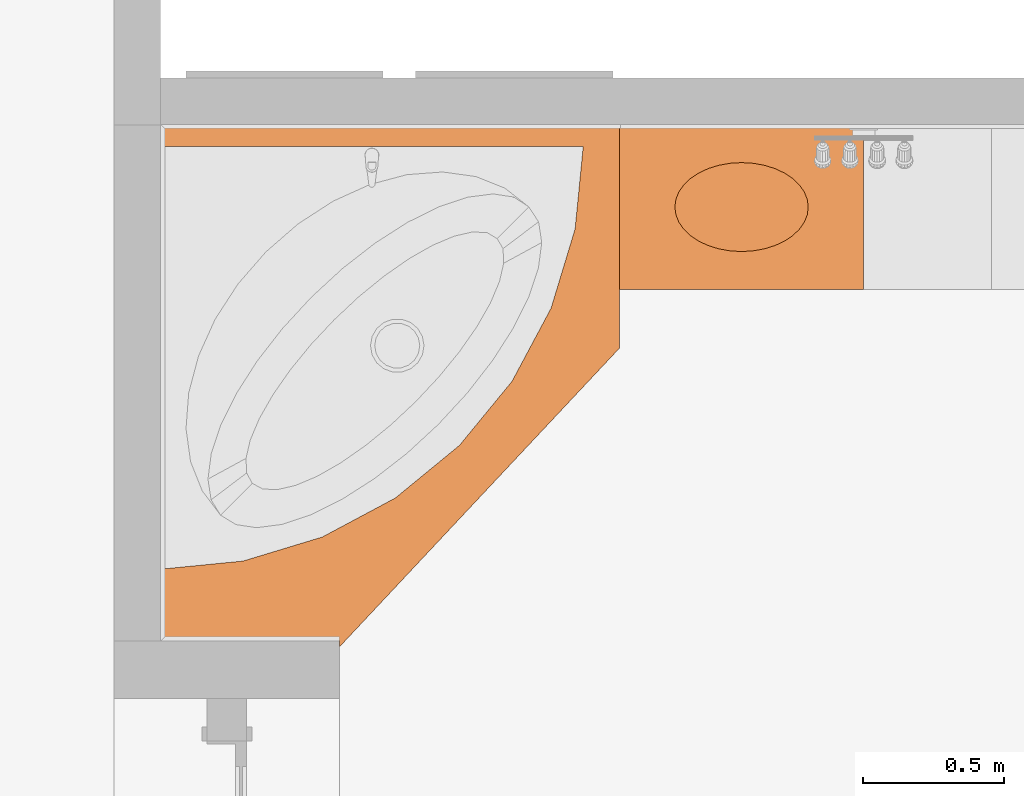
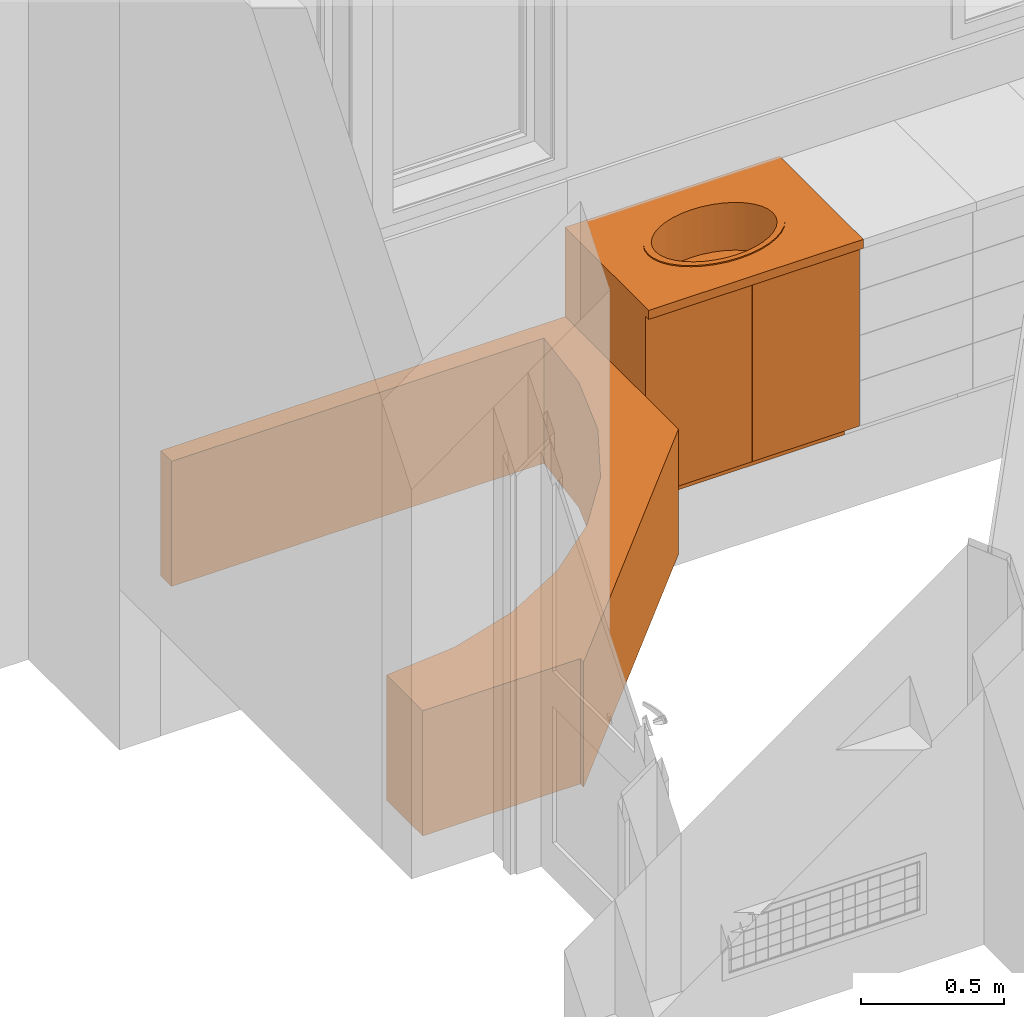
# One storey, part 67 of 77: 2 proxies.
"""IFC2X3 building model written with IfcOpenShell, lengths in inches."""

from ifc_helpers import new_model, entity, si_unit, converted_unit, derived_unit, money_unit, direction, frame, origin_with_axes, place, context, subcontext, project, spatial, open_shell, faceted_brep, surface_model, material, type_object, element, save


model = new_model("IFC2X3")

# Units and contexts
model_context = context("Model", 3, precision=0.000393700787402, world=origin_with_axes(), true_north=direction((0.0, 1.0)))
body_context = subcontext(model_context, "Body", "Model", "MODEL_VIEW")
ifc_project = project(units=[converted_unit("LENGTHUNIT", "INCH", entity("IfcPositiveLengthMeasure", 0.0254), si_unit("LENGTHUNIT", "METRE"), dimensions=[1, 0, 0, 0, 0, 0, 0]), converted_unit("AREAUNIT", "SQUARE_FOOT", entity("IfcPositiveLengthMeasure", 0.09290304), si_unit("AREAUNIT", "SQUARE_METRE"), dimensions=[2, 0, 0, 0, 0, 0, 0]), si_unit("PLANEANGLEUNIT", "RADIAN"), si_unit("SOLIDANGLEUNIT", "STERADIAN"), money_unit("USD"), converted_unit("TIMEUNIT", "Year", entity("IfcTimeMeasure", 31556926.0), si_unit("TIMEUNIT", "SECOND"), dimensions=[0, 0, 1, 0, 0, 0, 0]), si_unit("MASSUNIT", "GRAM", prefix="KILO"), si_unit("THERMODYNAMICTEMPERATUREUNIT", "DEGREE_CELSIUS"), si_unit("LUMINOUSINTENSITYUNIT", "LUMEN"), si_unit("ENERGYUNIT", "JOULE", prefix="MEGA"), derived_unit("THERMALCONDUCTANCEUNIT", [(si_unit("POWERUNIT", "WATT"), 1), (si_unit("LENGTHUNIT", "METRE"), -1), (si_unit("THERMODYNAMICTEMPERATUREUNIT", "KELVIN"), -1)]), derived_unit("SPECIFICHEATCAPACITYUNIT", [(si_unit("ENERGYUNIT", "JOULE"), 1), (si_unit("MASSUNIT", "GRAM", prefix="KILO"), -1), (si_unit("THERMODYNAMICTEMPERATUREUNIT", "KELVIN"), -1)]), derived_unit("MASSDENSITYUNIT", [(si_unit("MASSUNIT", "GRAM", prefix="KILO"), 1), (si_unit("VOLUMEUNIT", "CUBIC_METRE"), -1)])], contexts=[model_context])

# Site, building, storey
site_placement = place(None, origin_with_axes())
site = spatial("IfcSite", under=ifc_project, at=site_placement, Name="Site", CompositionType="ELEMENT")
building_placement = place(site_placement, origin_with_axes())
building = spatial("IfcBuilding", under=site, at=building_placement, Name="Building", CompositionType="ELEMENT")
storey_placement = place(building_placement, frame((0.0, 0.0, 127.952755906), z_axis=(0.0, 0.0, 1.0), x_axis=(1.0, 0.0, 0.0)))
storey = spatial("IfcBuildingStorey", under=building, at=storey_placement, Name="Second Floor", CompositionType="ELEMENT", Elevation=127.953)

# Proxies
ifc_material = material(Name="Generic - Structural")
building_element_proxy_type_1 = type_object("IfcBuildingElementProxyType", Name="Generic - Structural", PredefinedType="NOTDEFINED")
proxy_1_placement = place(storey_placement, frame((477.485392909, 551.859125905, 0.0), z_axis=(0.0, 0.0, 1.0), x_axis=(1.0, 0.0, 0.0)))
element("IfcBuildingElementProxy", 1, at=proxy_1_placement, inside=storey, type_object=building_element_proxy_type_1, material=ifc_material, Name="MO-05", context=body_context, shape_type="Brep", body=[
    faceted_brep([(-52.7247125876, -29.8798200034, 21.0), (-64.2457934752, -31.0145372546, 21.0), (-64.2457495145, -40.9519535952, 21.0), (-39.2457495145, -40.9519535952, 21.0), (-39.2457005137, -41.8675978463, 21.0), (-0.0913544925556, -0.0974576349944, 21.0), (-0.0870925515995, 31.0492793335, 21.0), (-64.2457495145, 31.0492793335, 21.0), (-64.2457934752, 28.0405808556, 21.0), (-5.19071115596, 28.0405808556, 21.0), (-6.32542840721, 16.519535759, 21.0), (-9.68598674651, 5.4411893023, 21.0), (-15.1432523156, -4.76868900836, 21.0), (-22.4875257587, -13.7176868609, 21.0), (-31.4365236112, -21.061960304, 21.0), (-41.6464019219, -26.5192258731, 21.0), (-52.7247125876, -29.8798200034, 0.0), (-64.2457934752, -31.0145372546, 0.0), (-64.2457495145, -40.9519535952, 0.0), (-39.2457495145, -40.9519535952, 0.0), (-39.2457005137, -41.8675978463, 0.0), (-0.0913544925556, -0.0974576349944, 0.0), (-0.0870925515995, 31.0492793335, 0.0), (-64.2457495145, 31.0492793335, 0.0), (-64.2457934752, 28.0405808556, 0.0), (-5.19071115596, 28.0405808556, 0.0), (-6.32542840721, 16.519535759, 0.0), (-9.68598674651, 5.4411893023, 0.0), (-15.1432523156, -4.76868900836, 0.0), (-22.4875257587, -13.7176868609, 0.0), (-31.4365236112, -21.061960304, 0.0), (-41.6464019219, -26.5192258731, 0.0)], [[[0, 1, 2, 3, 4, 5, 6, 7, 8, 9, 10, 11, 12, 13, 14, 15]], [[1, 0, 16, 17]], [[1, 17, 18, 2]], [[2, 18, 19, 3]], [[3, 19, 20, 4]], [[5, 4, 20, 21]], [[6, 5, 21, 22]], [[22, 23, 7, 6]], [[24, 8, 7, 23]], [[9, 8, 24, 25]], [[10, 9, 25, 26]], [[11, 10, 26, 27]], [[12, 11, 27, 28]], [[13, 12, 28, 29]], [[14, 13, 29, 30]], [[15, 14, 30, 31]], [[0, 15, 31, 16]], [[25, 24, 23, 22, 21, 20, 19, 18, 17, 16, 31, 30, 29, 28, 27, 26]]]),
])
building_element_proxy_type_2 = type_object("IfcBuildingElementProxyType", Name="Base Cabinet Block 25", PredefinedType="NOTDEFINED")
proxy_2_placement = place(storey_placement, frame((477.395156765, 582.981927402, 0.0), z_axis=(0.0, 0.0, 1.0), x_axis=(1.0, 0.0, 0.0)))
element("IfcBuildingElementProxy", 2, at=proxy_2_placement, inside=storey, type_object=building_element_proxy_type_2, Name="FU - 025", context=body_context, shape_type="SurfaceModel", body=[
    surface_model("IfcShellBasedSurfaceModel", [(26.3464566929, -11.5413385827, 28.1456692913), (26.2048816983, -10.4625321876, 28.1456692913), (26.2048816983, -10.4625321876, 35.9488188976), (26.3464566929, -11.5413385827, 35.9488188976), (26.2048816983, -12.6201449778, 28.1456692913), (25.7844583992, -13.6661723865, 28.1456692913), (25.0979611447, -14.6476377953, 28.1456692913), (24.1662488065, -15.5347198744, 28.1456692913), (23.0176309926, -16.3004650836, 28.1456692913), (21.687007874, -16.9216066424, 28.1456692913), (20.2148097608, -17.3792714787, 28.1456692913), (18.6457686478, -17.6595536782, 28.1456692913), (17.0275590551, -17.7539370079, 28.1456692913), (15.4093494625, -17.6595536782, 28.1456692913), (13.8403083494, -17.3792714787, 28.1456692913), (12.3681102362, -16.9216066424, 28.1456692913), (11.0374871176, -16.3004650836, 28.1456692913), (9.88886930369, -15.5347198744, 28.1456692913), (8.95715696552, -14.6476377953, 28.1456692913), (8.27065971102, -13.6661723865, 28.1456692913), (7.85023641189, -12.6201449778, 28.1456692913), (7.70866141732, -11.5413385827, 28.1456692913), (7.85023641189, -10.4625321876, 28.1456692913), (8.27065971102, -9.41650477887, 28.1456692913), (8.95715696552, -8.43503937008, 28.1456692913), (9.88886930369, -7.547957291, 28.1456692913), (11.0374871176, -6.78221208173, 28.1456692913), (12.3681102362, -6.16107052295, 28.1456692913), (13.8403083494, -5.70340568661, 28.1456692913), (15.4093494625, -5.42312348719, 28.1456692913), (17.0275590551, -5.32874015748, 28.1456692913), (18.6457686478, -5.42312348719, 28.1456692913), (20.2148097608, -5.70340568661, 28.1456692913), (21.687007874, -6.16107052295, 28.1456692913), (23.0176309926, -6.78221208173, 28.1456692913), (24.1662488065, -7.547957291, 28.1456692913), (25.0979611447, -8.43503937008, 28.1456692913), (25.7844583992, -9.41650477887, 28.1456692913), (25.7844583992, -9.41650477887, 35.9488188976), (26.2048816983, -12.6201449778, 35.9488188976), (25.7844583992, -13.6661723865, 35.9488188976), (25.0979611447, -14.6476377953, 35.9488188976), (24.1662488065, -15.5347198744, 35.9488188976), (23.0176309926, -16.3004650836, 35.9488188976), (21.687007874, -16.9216066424, 35.9488188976), (20.2148097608, -17.3792714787, 35.9488188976), (18.6457686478, -17.6595536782, 35.9488188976), (17.0275590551, -17.7539370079, 35.9488188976), (15.4093494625, -17.6595536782, 35.9488188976), (13.8403083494, -17.3792714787, 35.9488188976), (12.3681102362, -16.9216066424, 35.9488188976), (11.0374871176, -16.3004650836, 35.9488188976), (9.88886930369, -15.5347198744, 35.9488188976), (8.95715696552, -14.6476377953, 35.9488188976), (8.27065971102, -13.6661723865, 35.9488188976), (7.85023641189, -12.6201449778, 35.9488188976), (7.70866141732, -11.5413385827, 35.9488188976), (7.85023641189, -10.4625321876, 35.9488188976), (8.27065971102, -9.41650477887, 35.9488188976), (8.95715696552, -8.43503937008, 35.9488188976), (9.88886930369, -7.547957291, 35.9488188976), (11.0374871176, -6.78221208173, 35.9488188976), (12.3681102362, -6.16107052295, 35.9488188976), (13.8403083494, -5.70340568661, 35.9488188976), (15.4093494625, -5.42312348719, 35.9488188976), (17.0275590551, -5.32874015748, 35.9488188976), (18.6457686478, -5.42312348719, 35.9488188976), (20.2148097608, -5.70340568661, 35.9488188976), (21.687007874, -6.16107052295, 35.9488188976), (23.0176309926, -6.78221208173, 35.9488188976), (24.1662488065, -7.547957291, 35.9488188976), (25.0979611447, -8.43503937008, 35.9488188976)], [open_shell([[[0, 1, 2, 3]], [[0, 4, 5, 6, 7, 8, 9, 10, 11, 12, 13, 14, 15, 16, 17, 18, 19, 20, 21, 22, 23, 24, 25, 26, 27, 28, 29, 30, 31, 32, 33, 34, 35, 36, 37, 1]], [[1, 37, 38, 2]], [[4, 0, 3, 39]], [[5, 4, 39, 40]], [[6, 5, 40, 41]], [[7, 6, 41, 42]], [[8, 7, 42, 43]], [[9, 8, 43, 44]], [[10, 9, 44, 45]], [[11, 10, 45, 46]], [[12, 11, 46, 47]], [[13, 12, 47, 48]], [[14, 13, 48, 49]], [[15, 14, 49, 50]], [[16, 15, 50, 51]], [[17, 16, 51, 52]], [[18, 17, 52, 53]], [[19, 18, 53, 54]], [[20, 19, 54, 55]], [[21, 20, 55, 56]], [[22, 21, 56, 57]], [[23, 22, 57, 58]], [[24, 23, 58, 59]], [[25, 24, 59, 60]], [[26, 25, 60, 61]], [[27, 26, 61, 62]], [[28, 27, 62, 63]], [[29, 28, 63, 64]], [[30, 29, 64, 65]], [[31, 30, 65, 66]], [[32, 31, 66, 67]], [[33, 32, 67, 68]], [[34, 33, 68, 69]], [[35, 34, 69, 70]], [[36, 35, 70, 71]], [[37, 36, 71, 38]]])]),
    faceted_brep([(27.5275590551, -11.5413385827, 35.9488188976), (27.3680404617, -10.325801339, 35.9488188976), (27.3680404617, -10.325801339, 36.1456692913), (27.5275590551, -11.5413385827, 36.1456692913), (27.3680404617, -12.7568758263, 35.9488188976), (26.8943315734, -13.935479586, 35.9488188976), (26.1208257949, -15.0413385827, 35.9488188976), (25.0710257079, -16.0408518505, 35.9488188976), (23.7768289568, -16.9036496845, 35.9488188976), (22.2775590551, -17.6035164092, 35.9488188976), (20.61877056, -18.1191869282, 35.9488188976), (18.8508649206, -18.4349928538, 35.9488188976), (17.0275590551, -18.5413385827, 35.9488188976), (15.2042531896, -18.4349928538, 35.9488188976), (13.4363475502, -18.1191869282, 35.9488188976), (11.7775590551, -17.6035164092, 35.9488188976), (10.2782891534, -16.9036496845, 35.9488188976), (8.98409240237, -16.0408518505, 35.9488188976), (7.93429231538, -15.0413385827, 35.9488188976), (7.16078653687, -13.935479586, 35.9488188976), (6.68707764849, -12.7568758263, 35.9488188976), (6.52755905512, -11.5413385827, 35.9488188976), (6.68707764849, -10.325801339, 35.9488188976), (7.16078653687, -9.1471975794, 35.9488188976), (7.93429231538, -8.04133858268, 35.9488188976), (8.98409240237, -7.04182531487, 35.9488188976), (10.2782891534, -6.17902748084, 35.9488188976), (11.7775590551, -5.47916075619, 35.9488188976), (13.4363475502, -4.96349023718, 35.9488188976), (15.2042531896, -4.64768431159, 35.9488188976), (17.0275590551, -4.54133858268, 35.9488188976), (18.8508649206, -4.64768431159, 35.9488188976), (20.61877056, -4.96349023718, 35.9488188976), (22.2775590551, -5.47916075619, 35.9488188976), (23.7768289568, -6.17902748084, 35.9488188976), (25.0710257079, -7.04182531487, 35.9488188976), (26.1208257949, -8.04133858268, 35.9488188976), (26.8943315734, -9.1471975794, 35.9488188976), (26.3464566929, -11.5413385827, 35.9488188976), (26.2048816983, -10.4625321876, 35.9488188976), (25.7844583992, -9.41650477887, 35.9488188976), (25.0979611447, -8.43503937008, 35.9488188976), (24.1662488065, -7.547957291, 35.9488188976), (23.0176309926, -6.78221208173, 35.9488188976), (21.687007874, -6.16107052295, 35.9488188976), (20.2148097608, -5.70340568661, 35.9488188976), (18.6457686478, -5.42312348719, 35.9488188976), (17.0275590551, -5.32874015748, 35.9488188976), (15.4093494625, -5.42312348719, 35.9488188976), (13.8403083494, -5.70340568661, 35.9488188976), (12.3681102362, -6.16107052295, 35.9488188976), (11.0374871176, -6.78221208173, 35.9488188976), (9.88886930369, -7.547957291, 35.9488188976), (8.95715696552, -8.43503937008, 35.9488188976), (8.27065971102, -9.41650477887, 35.9488188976), (7.85023641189, -10.4625321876, 35.9488188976), (7.70866141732, -11.5413385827, 35.9488188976), (7.85023641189, -12.6201449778, 35.9488188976), (8.27065971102, -13.6661723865, 35.9488188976), (8.95715696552, -14.6476377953, 35.9488188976), (9.88886930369, -15.5347198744, 35.9488188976), (11.0374871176, -16.3004650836, 35.9488188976), (12.3681102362, -16.9216066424, 35.9488188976), (13.8403083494, -17.3792714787, 35.9488188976), (15.4093494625, -17.6595536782, 35.9488188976), (17.0275590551, -17.7539370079, 35.9488188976), (18.6457686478, -17.6595536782, 35.9488188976), (20.2148097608, -17.3792714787, 35.9488188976), (21.687007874, -16.9216066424, 35.9488188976), (23.0176309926, -16.3004650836, 35.9488188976), (24.1662488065, -15.5347198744, 35.9488188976), (25.0979611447, -14.6476377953, 35.9488188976), (25.7844583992, -13.6661723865, 35.9488188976), (26.2048816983, -12.6201449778, 35.9488188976), (26.8943315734, -9.1471975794, 36.1456692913), (26.1208257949, -8.04133858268, 36.1456692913), (25.0710257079, -7.04182531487, 36.1456692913), (23.7768289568, -6.17902748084, 36.1456692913), (22.2775590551, -5.47916075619, 36.1456692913), (20.61877056, -4.96349023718, 36.1456692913), (18.8508649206, -4.64768431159, 36.1456692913), (17.0275590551, -4.54133858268, 36.1456692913), (15.2042531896, -4.64768431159, 36.1456692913), (13.4363475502, -4.96349023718, 36.1456692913), (11.7775590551, -5.47916075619, 36.1456692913), (10.2782891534, -6.17902748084, 36.1456692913), (8.98409240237, -7.04182531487, 36.1456692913), (7.93429231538, -8.04133858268, 36.1456692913), (7.16078653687, -9.1471975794, 36.1456692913), (6.68707764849, -10.325801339, 36.1456692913), (6.52755905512, -11.5413385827, 36.1456692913), (6.68707764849, -12.7568758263, 36.1456692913), (7.16078653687, -13.935479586, 36.1456692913), (7.93429231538, -15.0413385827, 36.1456692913), (8.98409240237, -16.0408518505, 36.1456692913), (10.2782891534, -16.9036496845, 36.1456692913), (11.7775590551, -17.6035164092, 36.1456692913), (13.4363475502, -18.1191869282, 36.1456692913), (15.2042531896, -18.4349928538, 36.1456692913), (17.0275590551, -18.5413385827, 36.1456692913), (18.8508649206, -18.4349928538, 36.1456692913), (20.61877056, -18.1191869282, 36.1456692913), (22.2775590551, -17.6035164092, 36.1456692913), (23.7768289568, -16.9036496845, 36.1456692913), (25.0710257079, -16.0408518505, 36.1456692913), (26.1208257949, -15.0413385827, 36.1456692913), (26.8943315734, -13.935479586, 36.1456692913), (27.3680404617, -12.7568758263, 36.1456692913), (26.3464566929, -11.5413385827, 36.1456692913), (26.2048816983, -12.6201449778, 36.1456692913), (25.7844583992, -13.6661723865, 36.1456692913), (25.0979611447, -14.6476377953, 36.1456692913), (24.1662488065, -15.5347198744, 36.1456692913), (23.0176309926, -16.3004650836, 36.1456692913), (21.687007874, -16.9216066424, 36.1456692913), (20.2148097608, -17.3792714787, 36.1456692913), (18.6457686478, -17.6595536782, 36.1456692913), (17.0275590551, -17.7539370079, 36.1456692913), (15.4093494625, -17.6595536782, 36.1456692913), (13.8403083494, -17.3792714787, 36.1456692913), (12.3681102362, -16.9216066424, 36.1456692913), (11.0374871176, -16.3004650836, 36.1456692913), (9.88886930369, -15.5347198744, 36.1456692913), (8.95715696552, -14.6476377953, 36.1456692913), (8.27065971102, -13.6661723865, 36.1456692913), (7.85023641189, -12.6201449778, 36.1456692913), (7.70866141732, -11.5413385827, 36.1456692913), (7.85023641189, -10.4625321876, 36.1456692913), (8.27065971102, -9.41650477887, 36.1456692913), (8.95715696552, -8.43503937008, 36.1456692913), (9.88886930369, -7.547957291, 36.1456692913), (11.0374871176, -6.78221208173, 36.1456692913), (12.3681102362, -6.16107052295, 36.1456692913), (13.8403083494, -5.70340568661, 36.1456692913), (15.4093494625, -5.42312348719, 36.1456692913), (17.0275590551, -5.32874015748, 36.1456692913), (18.6457686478, -5.42312348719, 36.1456692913), (20.2148097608, -5.70340568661, 36.1456692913), (21.687007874, -6.16107052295, 36.1456692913), (23.0176309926, -6.78221208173, 36.1456692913), (24.1662488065, -7.547957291, 36.1456692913), (25.0979611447, -8.43503937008, 36.1456692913), (25.7844583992, -9.41650477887, 36.1456692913), (26.2048816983, -10.4625321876, 36.1456692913)], [[[0, 1, 2, 3]], [[0, 4, 5, 6, 7, 8, 9, 10, 11, 12, 13, 14, 15, 16, 17, 18, 19, 20, 21, 22, 23, 24, 25, 26, 27, 28, 29, 30, 31, 32, 33, 34, 35, 36, 37, 1], [38, 39, 40, 41, 42, 43, 44, 45, 46, 47, 48, 49, 50, 51, 52, 53, 54, 55, 56, 57, 58, 59, 60, 61, 62, 63, 64, 65, 66, 67, 68, 69, 70, 71, 72, 73]], [[1, 37, 74, 2]], [[3, 2, 74, 75, 76, 77, 78, 79, 80, 81, 82, 83, 84, 85, 86, 87, 88, 89, 90, 91, 92, 93, 94, 95, 96, 97, 98, 99, 100, 101, 102, 103, 104, 105, 106, 107], [108, 109, 110, 111, 112, 113, 114, 115, 116, 117, 118, 119, 120, 121, 122, 123, 124, 125, 126, 127, 128, 129, 130, 131, 132, 133, 134, 135, 136, 137, 138, 139, 140, 141, 142, 143]], [[4, 0, 3, 107]], [[5, 4, 107, 106]], [[6, 5, 106, 105]], [[7, 6, 105, 104]], [[8, 7, 104, 103]], [[9, 8, 103, 102]], [[10, 9, 102, 101]], [[11, 10, 101, 100]], [[12, 11, 100, 99]], [[13, 12, 99, 98]], [[14, 13, 98, 97]], [[15, 14, 97, 96]], [[16, 15, 96, 95]], [[17, 16, 95, 94]], [[18, 17, 94, 93]], [[19, 18, 93, 92]], [[20, 19, 92, 91]], [[21, 20, 91, 90]], [[22, 21, 90, 89]], [[23, 22, 89, 88]], [[24, 23, 88, 87]], [[25, 24, 87, 86]], [[26, 25, 86, 85]], [[27, 26, 85, 84]], [[28, 27, 84, 83]], [[29, 28, 83, 82]], [[30, 29, 82, 81]], [[31, 30, 81, 80]], [[32, 31, 80, 79]], [[33, 32, 79, 78]], [[34, 33, 78, 77]], [[35, 34, 77, 76]], [[36, 35, 76, 75]], [[37, 36, 75, 74]], [[39, 38, 108, 143]], [[40, 39, 143, 142]], [[41, 40, 142, 141]], [[42, 41, 141, 140]], [[43, 42, 140, 139]], [[44, 43, 139, 138]], [[45, 44, 138, 137]], [[46, 45, 137, 136]], [[47, 46, 136, 135]], [[48, 47, 135, 134]], [[49, 48, 134, 133]], [[50, 49, 133, 132]], [[51, 50, 132, 131]], [[52, 51, 131, 130]], [[53, 52, 130, 129]], [[54, 53, 129, 128]], [[55, 54, 128, 127]], [[56, 55, 127, 126]], [[57, 56, 126, 125]], [[58, 57, 125, 124]], [[59, 58, 124, 123]], [[60, 59, 123, 122]], [[61, 60, 122, 121]], [[62, 61, 121, 120]], [[63, 62, 120, 119]], [[64, 63, 119, 118]], [[65, 64, 118, 117]], [[66, 65, 117, 116]], [[67, 66, 116, 115]], [[68, 67, 115, 114]], [[69, 68, 114, 113]], [[70, 69, 113, 112]], [[71, 70, 112, 111]], [[72, 71, 111, 110]], [[73, 72, 110, 109]], [[38, 73, 109, 108]]]),
    faceted_brep([(0.0, 0.0, 34.4488188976), (34.0551181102, 0.0, 34.4488188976), (34.0551181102, -23.0472440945, 34.4488188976), (0.0, -23.0472440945, 34.4488188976), (26.1544161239, -13.6661723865, 34.4488188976), (26.5926012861, -12.6201449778, 34.4488188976), (26.7401574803, -11.5413385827, 34.4488188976), (26.5926012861, -10.4625321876, 34.4488188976), (26.1544161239, -9.41650477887, 34.4488188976), (25.4389160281, -8.43503937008, 34.4488188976), (24.467841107, -7.547957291, 34.4488188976), (23.2706969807, -6.78221208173, 34.4488188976), (21.8838582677, -6.16107052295, 34.4488188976), (20.3494633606, -5.70340568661, 34.4488188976), (18.7141340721, -5.42312348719, 34.4488188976), (17.0275590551, -5.32874015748, 34.4488188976), (15.3409840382, -5.42312348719, 34.4488188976), (13.7056547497, -5.70340568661, 34.4488188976), (12.1712598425, -6.16107052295, 34.4488188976), (10.7844211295, -6.78221208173, 34.4488188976), (9.58727700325, -7.547957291, 34.4488188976), (8.61620208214, -8.43503937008, 34.4488188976), (7.9007019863, -9.41650477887, 34.4488188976), (7.46251682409, -10.4625321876, 34.4488188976), (7.31496062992, -11.5413385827, 34.4488188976), (7.46251682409, -12.6201449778, 34.4488188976), (7.9007019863, -13.6661723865, 34.4488188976), (8.61620208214, -14.6476377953, 34.4488188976), (9.58727700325, -15.5347198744, 34.4488188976), (10.7844211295, -16.3004650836, 34.4488188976), (12.1712598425, -16.9216066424, 34.4488188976), (13.7056547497, -17.3792714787, 34.4488188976), (15.3409840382, -17.6595536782, 34.4488188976), (17.0275590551, -17.7539370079, 34.4488188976), (18.7141340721, -17.6595536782, 34.4488188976), (20.3494633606, -17.3792714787, 34.4488188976), (21.8838582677, -16.9216066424, 34.4488188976), (23.2706969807, -16.3004650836, 34.4488188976), (24.467841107, -15.5347198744, 34.4488188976), (25.4389160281, -14.6476377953, 34.4488188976), (0.0, 0.0, 35.9488188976), (34.0551181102, 0.0, 35.9488188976), (34.0551181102, -23.0472440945, 35.9488188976), (0.0, -23.0472440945, 35.9488188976), (26.1544161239, -13.6661723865, 35.9488188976), (26.5926012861, -12.6201449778, 35.9488188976), (26.7401574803, -11.5413385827, 35.9488188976), (26.5926012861, -10.4625321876, 35.9488188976), (26.1544161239, -9.41650477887, 35.9488188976), (25.4389160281, -8.43503937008, 35.9488188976), (24.467841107, -7.547957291, 35.9488188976), (23.2706969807, -6.78221208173, 35.9488188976), (21.8838582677, -6.16107052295, 35.9488188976), (20.3494633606, -5.70340568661, 35.9488188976), (18.7141340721, -5.42312348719, 35.9488188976), (17.0275590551, -5.32874015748, 35.9488188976), (15.3409840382, -5.42312348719, 35.9488188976), (13.7056547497, -5.70340568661, 35.9488188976), (12.1712598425, -6.16107052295, 35.9488188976), (10.7844211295, -6.78221208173, 35.9488188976), (9.58727700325, -7.547957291, 35.9488188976), (8.61620208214, -8.43503937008, 35.9488188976), (7.9007019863, -9.41650477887, 35.9488188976), (7.46251682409, -10.4625321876, 35.9488188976), (7.31496062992, -11.5413385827, 35.9488188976), (7.46251682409, -12.6201449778, 35.9488188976), (7.9007019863, -13.6661723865, 35.9488188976), (8.61620208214, -14.6476377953, 35.9488188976), (9.58727700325, -15.5347198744, 35.9488188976), (10.7844211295, -16.3004650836, 35.9488188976), (12.1712598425, -16.9216066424, 35.9488188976), (13.7056547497, -17.3792714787, 35.9488188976), (15.3409840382, -17.6595536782, 35.9488188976), (17.0275590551, -17.7539370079, 35.9488188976), (18.7141340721, -17.6595536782, 35.9488188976), (20.3494633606, -17.3792714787, 35.9488188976), (21.8838582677, -16.9216066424, 35.9488188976), (23.2706969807, -16.3004650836, 35.9488188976), (24.467841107, -15.5347198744, 35.9488188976), (25.4389160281, -14.6476377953, 35.9488188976)], [[[0, 1, 2, 3], [4, 5, 6, 7, 8, 9, 10, 11, 12, 13, 14, 15, 16, 17, 18, 19, 20, 21, 22, 23, 24, 25, 26, 27, 28, 29, 30, 31, 32, 33, 34, 35, 36, 37, 38, 39]], [[0, 40, 41, 1]], [[1, 41, 42, 2]], [[2, 42, 43, 3]], [[3, 43, 40, 0]], [[44, 45, 5, 4]], [[45, 46, 6, 5]], [[46, 47, 7, 6]], [[47, 48, 8, 7]], [[48, 49, 9, 8]], [[49, 50, 10, 9]], [[50, 51, 11, 10]], [[51, 52, 12, 11]], [[52, 53, 13, 12]], [[53, 54, 14, 13]], [[54, 55, 15, 14]], [[55, 56, 16, 15]], [[56, 57, 17, 16]], [[57, 58, 18, 17]], [[58, 59, 19, 18]], [[59, 60, 20, 19]], [[60, 61, 21, 20]], [[61, 62, 22, 21]], [[62, 63, 23, 22]], [[63, 64, 24, 23]], [[64, 65, 25, 24]], [[65, 66, 26, 25]], [[66, 67, 27, 26]], [[67, 68, 28, 27]], [[68, 69, 29, 28]], [[69, 70, 30, 29]], [[70, 71, 31, 30]], [[71, 72, 32, 31]], [[72, 73, 33, 32]], [[73, 74, 34, 33]], [[74, 75, 35, 34]], [[75, 76, 36, 35]], [[76, 77, 37, 36]], [[77, 78, 38, 37]], [[78, 79, 39, 38]], [[79, 44, 4, 39]], [[42, 41, 40, 43], [48, 47, 46, 45, 44, 79, 78, 77, 76, 75, 74, 73, 72, 71, 70, 69, 68, 67, 66, 65, 64, 63, 62, 61, 60, 59, 58, 57, 56, 55, 54, 53, 52, 51, 50, 49]]]),
    faceted_brep([(0.0393700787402, -21.2972440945, 4.03937007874), (16.9881889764, -21.2972440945, 4.03937007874), (16.9881889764, -22.0472440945, 4.03937007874), (0.0393700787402, -22.0472440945, 4.03937007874), (0.0393700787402, -21.2972440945, 34.4094488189), (16.9881889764, -21.2972440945, 34.4094488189), (16.9881889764, -22.0472440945, 34.4094488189), (0.0393700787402, -22.0472440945, 34.4094488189)], [[[0, 1, 2, 3]], [[0, 4, 5, 1]], [[1, 5, 6, 2]], [[3, 2, 6, 7]], [[4, 0, 3, 7]], [[5, 4, 7, 6]]]),
    faceted_brep([(34.0157480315, -21.2972440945, 4.03937007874), (34.0157480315, -22.0472440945, 4.03937007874), (17.0669291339, -22.0472440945, 4.03937007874), (17.0669291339, -21.2972440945, 4.03937007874), (34.0157480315, -21.2972440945, 34.4094488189), (34.0157480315, -22.0472440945, 34.4094488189), (17.0669291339, -22.0472440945, 34.4094488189), (17.0669291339, -21.2972440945, 34.4094488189)], [[[0, 1, 2, 3]], [[4, 5, 1, 0]], [[1, 5, 6, 2]], [[3, 2, 6, 7]], [[0, 3, 7, 4]], [[7, 6, 5, 4]]]),
    faceted_brep([(0.75, -21.2972440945, 4.0), (33.3051181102, -21.2972440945, 4.0), (33.3051181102, -21.2972440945, 4.75), (0.75, -21.2972440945, 4.75), (0.75, 0.0, 4.0), (33.3051181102, 0.0, 4.0), (33.3051181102, 0.0, 4.75), (0.75, 0.0, 4.75)], [[[0, 1, 2, 3]], [[0, 4, 5, 1]], [[1, 5, 6, 2]], [[3, 2, 6, 7]], [[4, 0, 3, 7]], [[5, 4, 7, 6]]]),
    faceted_brep([(0.75, -21.2972440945, 33.6988188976), (0.75, -18.9350393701, 33.6988188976), (33.3051181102, -18.9350393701, 33.6988188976), (33.3051181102, -21.2972440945, 33.6988188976), (0.75, -21.2972440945, 34.4488188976), (0.75, -18.9350393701, 34.4488188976), (33.3051181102, -18.9350393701, 34.4488188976), (33.3051181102, -21.2972440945, 34.4488188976)], [[[0, 1, 2, 3]], [[0, 4, 5, 1]], [[1, 5, 6, 2]], [[3, 2, 6, 7]], [[4, 0, 3, 7]], [[5, 4, 7, 6]]]),
    faceted_brep([(33.3051181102, 0.0, 33.6988188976), (33.3051181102, -2.36220472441, 33.6988188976), (0.75, -2.36220472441, 33.6988188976), (0.75, 0.0, 33.6988188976), (33.3051181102, 0.0, 34.4488188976), (33.3051181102, -2.36220472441, 34.4488188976), (0.75, -2.36220472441, 34.4488188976), (0.75, 0.0, 34.4488188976)], [[[0, 1, 2, 3]], [[0, 4, 5, 1]], [[1, 5, 6, 2]], [[3, 2, 6, 7]], [[4, 0, 3, 7]], [[5, 4, 7, 6]]]),
    faceted_brep([(0.0, 0.0, 4.0), (0.0, -21.2972440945, 4.0), (0.0, -21.2972440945, 34.4488188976), (0.0, 0.0, 34.4488188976), (0.75, 0.0, 4.0), (0.75, -21.2972440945, 4.0), (0.75, -21.2972440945, 34.4488188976), (0.75, 0.0, 34.4488188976)], [[[0, 1, 2, 3]], [[0, 4, 5, 1]], [[1, 5, 6, 2]], [[3, 2, 6, 7]], [[4, 0, 3, 7]], [[5, 4, 7, 6]]]),
    faceted_brep([(34.0551181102, -21.2972440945, 4.0), (34.0551181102, 0.0, 4.0), (34.0551181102, 0.0, 34.4488188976), (34.0551181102, -21.2972440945, 34.4488188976), (33.3051181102, -21.2972440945, 4.0), (33.3051181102, 0.0, 4.0), (33.3051181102, 0.0, 34.4488188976), (33.3051181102, -21.2972440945, 34.4488188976)], [[[0, 1, 2, 3]], [[0, 4, 5, 1]], [[1, 5, 6, 2]], [[3, 2, 6, 7]], [[4, 0, 3, 7]], [[5, 4, 7, 6]]]),
    faceted_brep([(33.3051181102, -0.375, 4.75), (0.75, -0.375, 4.75), (0.75, -0.375, 33.6988188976), (33.3051181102, -0.375, 33.6988188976), (33.3051181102, -0.75, 4.75), (0.75, -0.75, 4.75), (0.75, -0.75, 33.6988188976), (33.3051181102, -0.75, 33.6988188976)], [[[0, 1, 2, 3]], [[0, 4, 5, 1]], [[1, 5, 6, 2]], [[3, 2, 6, 7]], [[4, 0, 3, 7]], [[5, 4, 7, 6]]]),
    faceted_brep([(0.0, -17.7972440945, 0.0), (34.0551181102, -17.7972440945, 0.0), (34.0551181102, -17.7972440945, 4.0), (0.0, -17.7972440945, 4.0), (0.0, 0.0, 0.0), (34.0551181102, 0.0, 0.0), (34.0551181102, 0.0, 4.0), (0.0, 0.0, 4.0)], [[[0, 1, 2, 3]], [[0, 4, 5, 1]], [[1, 5, 6, 2]], [[3, 2, 6, 7]], [[4, 0, 3, 7]], [[5, 4, 7, 6]]]),
])

save(model, "model.ifc")
